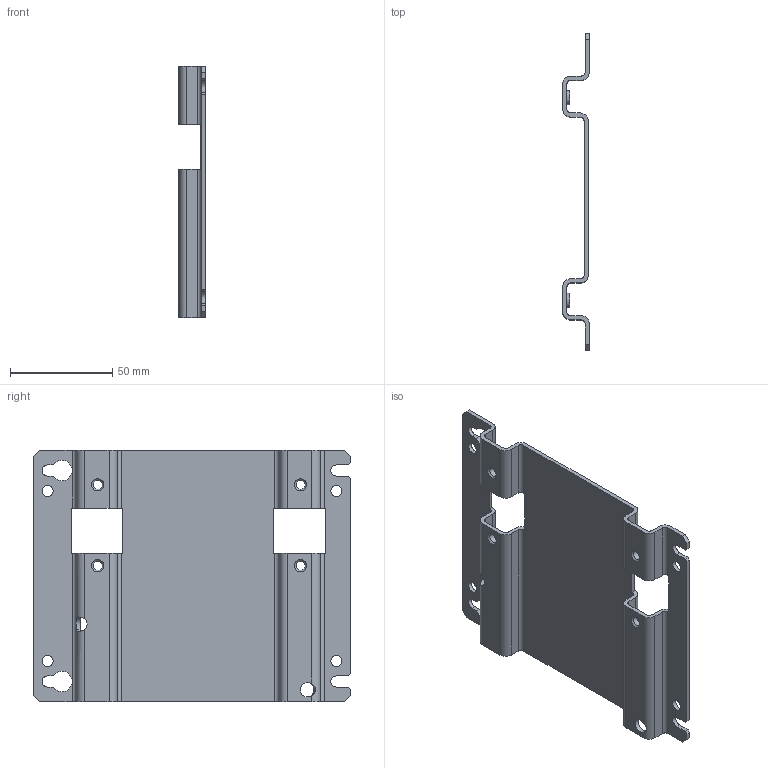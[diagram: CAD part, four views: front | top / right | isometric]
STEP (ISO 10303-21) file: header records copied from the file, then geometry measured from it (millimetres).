
FILE_DESCRIPTION((''),'2;1');
FILE_NAME('C:\Users\rahns\Desktop\Sylvia Info´s\Dateien für Vertrieb\ZM1\md3_zm1_ubc10.stp','2012-06-12T15:30:58',('rahns'),(''),'Autodesk Inventor 2009','Autodesk Inventor 2009','');
FILE_SCHEMA(('AUTOMOTIVE_DESIGN { 1 0 10303 214 1 1 1 1 }'));
Length unit declared in the file: millimetre
Products named in the file (1): ZM1
Bounding box: 13 x 155 x 123 mm (x, y, z)
Volume: 41543.6 mm3; surface area: 43913.3 mm2
Topology: 1 solids, 1 shells, 126 faces, 386 edges, 254 vertices
Faces by surface type: plane 64, cylinder 51, bspline 11
Full cylindrical faces by diameter (mm): 5.4 x4, 7 x4
Entity records: 4598 total; most frequent: CARTESIAN_POINT 1104, ORIENTED_EDGE 732, DIRECTION 706, EDGE_CURVE 366, VERTEX_POINT 250, VECTOR 246, LINE 246, AXIS2_PLACEMENT_3D 230
